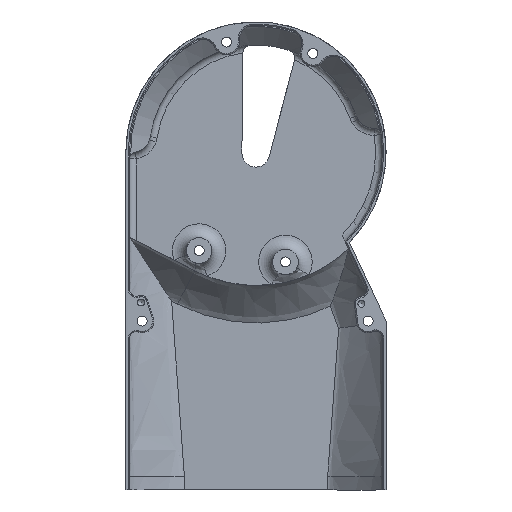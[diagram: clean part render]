
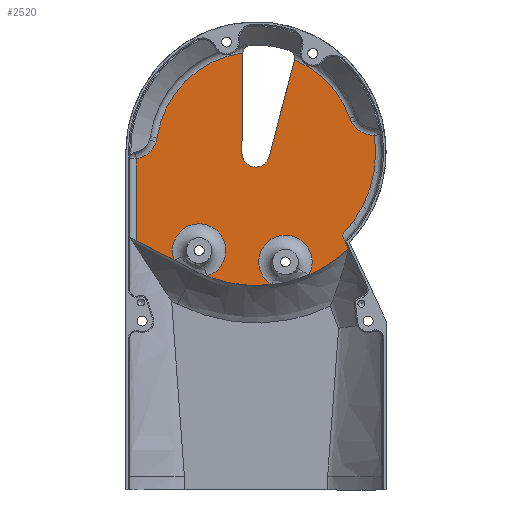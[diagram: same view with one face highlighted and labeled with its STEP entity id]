
A CAD part, front view. The second image highlights one B-rep face of the part: STEP entity #2520.
In plain terms, the highlighted planar face has unit normal (0, -1, 0).
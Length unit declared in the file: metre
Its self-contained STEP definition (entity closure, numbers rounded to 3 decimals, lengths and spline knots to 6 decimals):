
#159=CIRCLE('',#2732,0.0575);
#160=CIRCLE('',#2733,0.0115);
#161=CIRCLE('',#2734,0.0575);
#162=CIRCLE('',#2735,0.0515);
#163=CIRCLE('',#2736,0.011);
#164=CIRCLE('',#2737,0.043004);
#165=CIRCLE('',#2738,0.0035);
#166=CIRCLE('',#2739,0.006);
#167=CIRCLE('',#2740,0.0035);
#168=CIRCLE('',#2741,0.043004);
#169=CIRCLE('',#2742,0.011);
#170=CIRCLE('',#2743,0.0115);
#357=B_SPLINE_CURVE_WITH_KNOTS('',3,(#4792,#4793,#4794,#4795),
 .UNSPECIFIED.,.F.,.F.,(4,4),(0.,0.001967),.UNSPECIFIED.);
#358=B_SPLINE_CURVE_WITH_KNOTS('',3,(#4811,#4812,#4813,#4814),
 .UNSPECIFIED.,.F.,.F.,(4,4),(0.,0.001967),.UNSPECIFIED.);
#583=ORIENTED_EDGE('',*,*,#1326,.T.);
#584=ORIENTED_EDGE('',*,*,#1327,.F.);
#585=ORIENTED_EDGE('',*,*,#1328,.T.);
#586=ORIENTED_EDGE('',*,*,#1277,.T.);
#587=ORIENTED_EDGE('',*,*,#1329,.F.);
#588=ORIENTED_EDGE('',*,*,#1330,.F.);
#589=ORIENTED_EDGE('',*,*,#1331,.F.);
#590=ORIENTED_EDGE('',*,*,#1332,.F.);
#591=ORIENTED_EDGE('',*,*,#1333,.T.);
#592=ORIENTED_EDGE('',*,*,#1334,.T.);
#593=ORIENTED_EDGE('',*,*,#1335,.F.);
#594=ORIENTED_EDGE('',*,*,#1336,.F.);
#595=ORIENTED_EDGE('',*,*,#1337,.T.);
#596=ORIENTED_EDGE('',*,*,#1338,.F.);
#597=ORIENTED_EDGE('',*,*,#1339,.F.);
#598=ORIENTED_EDGE('',*,*,#1340,.F.);
#599=ORIENTED_EDGE('',*,*,#1341,.F.);
#600=ORIENTED_EDGE('',*,*,#1342,.T.);
#601=ORIENTED_EDGE('',*,*,#1343,.F.);
#1277=EDGE_CURVE('',#1654,#1653,#1863,.T.);
#1326=EDGE_CURVE('',#1694,#1695,#159,.F.);
#1327=EDGE_CURVE('',#1696,#1695,#160,.F.);
#1328=EDGE_CURVE('',#1696,#1654,#161,.F.);
#1329=EDGE_CURVE('',#1697,#1653,#162,.T.);
#1330=EDGE_CURVE('',#1698,#1697,#163,.F.);
#1331=EDGE_CURVE('',#1699,#1698,#357,.T.);
#1332=EDGE_CURVE('',#1700,#1699,#164,.T.);
#1333=EDGE_CURVE('',#1700,#1701,#165,.T.);
#1334=EDGE_CURVE('',#1701,#1702,#1879,.T.);
#1335=EDGE_CURVE('',#1703,#1702,#166,.F.);
#1336=EDGE_CURVE('',#1704,#1703,#1880,.T.);
#1337=EDGE_CURVE('',#1704,#1705,#167,.T.);
#1338=EDGE_CURVE('',#1706,#1705,#168,.T.);
#1339=EDGE_CURVE('',#1707,#1706,#358,.T.);
#1340=EDGE_CURVE('',#1708,#1707,#169,.F.);
#1341=EDGE_CURVE('',#1709,#1708,#1881,.T.);
#1342=EDGE_CURVE('',#1709,#1710,#1882,.T.);
#1343=EDGE_CURVE('',#1694,#1710,#170,.F.);
#1653=VERTEX_POINT('',#4450);
#1654=VERTEX_POINT('',#4452);
#1694=VERTEX_POINT('',#4783);
#1695=VERTEX_POINT('',#4784);
#1696=VERTEX_POINT('',#4786);
#1697=VERTEX_POINT('',#4789);
#1698=VERTEX_POINT('',#4791);
#1699=VERTEX_POINT('',#4796);
#1700=VERTEX_POINT('',#4798);
#1701=VERTEX_POINT('',#4800);
#1702=VERTEX_POINT('',#4802);
#1703=VERTEX_POINT('',#4804);
#1704=VERTEX_POINT('',#4806);
#1705=VERTEX_POINT('',#4808);
#1706=VERTEX_POINT('',#4810);
#1707=VERTEX_POINT('',#4815);
#1708=VERTEX_POINT('',#4817);
#1709=VERTEX_POINT('',#4819);
#1710=VERTEX_POINT('',#4821);
#1863=LINE('',#4451,#1980);
#1879=LINE('',#4801,#1996);
#1880=LINE('',#4805,#1997);
#1881=LINE('',#4818,#1998);
#1882=LINE('',#4820,#1999);
#1980=VECTOR('',#3089,1.);
#1996=VECTOR('',#3165,1.);
#1997=VECTOR('',#3168,1.);
#1998=VECTOR('',#3175,1.);
#1999=VECTOR('',#3176,1.);
#2095=EDGE_LOOP('',(#583,#584,#585,#586,#587,#588,#589,#590,#591,#592,#593,
#594,#595,#596,#597,#598,#599,#600,#601));
#2291=FACE_BOUND('',#2095,.T.);
#2470=PLANE('',#2731);
#2520=ADVANCED_FACE('',(#2291),#2470,.T.);
#2731=AXIS2_PLACEMENT_3D('',#4781,#3149,#3150);
#2732=AXIS2_PLACEMENT_3D('',#4782,#3151,#3152);
#2733=AXIS2_PLACEMENT_3D('',#4785,#3153,#3154);
#2734=AXIS2_PLACEMENT_3D('',#4787,#3155,#3156);
#2735=AXIS2_PLACEMENT_3D('',#4788,#3157,#3158);
#2736=AXIS2_PLACEMENT_3D('',#4790,#3159,#3160);
#2737=AXIS2_PLACEMENT_3D('',#4797,#3161,#3162);
#2738=AXIS2_PLACEMENT_3D('',#4799,#3163,#3164);
#2739=AXIS2_PLACEMENT_3D('',#4803,#3166,#3167);
#2740=AXIS2_PLACEMENT_3D('',#4807,#3169,#3170);
#2741=AXIS2_PLACEMENT_3D('',#4809,#3171,#3172);
#2742=AXIS2_PLACEMENT_3D('',#4816,#3173,#3174);
#2743=AXIS2_PLACEMENT_3D('',#4822,#3177,#3178);
#3089=DIRECTION('',(-0.423,0.,0.906));
#3149=DIRECTION('',(0.,-1.,0.));
#3150=DIRECTION('',(-1.,0.,0.));
#3151=DIRECTION('',(0.,1.,0.));
#3152=DIRECTION('',(0.,0.,-1.));
#3153=DIRECTION('',(0.,1.,0.));
#3154=DIRECTION('',(0.,0.,-1.));
#3155=DIRECTION('',(0.,1.,0.));
#3156=DIRECTION('',(0.,0.,-1.));
#3157=DIRECTION('',(0.,1.,0.));
#3158=DIRECTION('',(0.,0.,-1.));
#3159=DIRECTION('',(0.,1.,0.));
#3160=DIRECTION('',(0.,0.,-1.));
#3161=DIRECTION('',(0.,1.,0.));
#3162=DIRECTION('',(0.,0.,-1.));
#3163=DIRECTION('',(0.,1.,0.));
#3164=DIRECTION('',(0.,0.,-1.));
#3165=DIRECTION('',(-0.251,0.,-0.968));
#3166=DIRECTION('',(0.,1.,0.));
#3167=DIRECTION('',(0.,0.,-1.));
#3168=DIRECTION('',(-0.008,0.,-1.));
#3169=DIRECTION('',(0.,1.,0.));
#3170=DIRECTION('',(0.,0.,-1.));
#3171=DIRECTION('',(0.,1.,0.));
#3172=DIRECTION('',(0.,0.,-1.));
#3173=DIRECTION('',(0.,1.,0.));
#3174=DIRECTION('',(0.,0.,-1.));
#3175=DIRECTION('',(0.,0.,1.));
#3176=DIRECTION('',(0.889,0.,-0.458));
#3177=DIRECTION('',(0.,1.,0.));
#3178=DIRECTION('',(0.,0.,-1.));
#4450=CARTESIAN_POINT('',(-0.088921,0.03385,-0.129741));
#4451=CARTESIAN_POINT('',(-0.086729,0.03385,-0.134442));
#4452=CARTESIAN_POINT('',(-0.086225,0.03385,-0.135523));
#4781=CARTESIAN_POINT('',(0.,0.03385,-0.094));
#4782=CARTESIAN_POINT('',(-0.126,0.03385,-0.094));
#4783=CARTESIAN_POINT('',(-0.147196,0.03385,-0.147451));
#4784=CARTESIAN_POINT('',(-0.11936,0.03385,-0.151115));
#4785=CARTESIAN_POINT('',(-0.113318,0.03385,-0.14133));
#4786=CARTESIAN_POINT('',(-0.103193,0.03385,-0.146783));
#4787=CARTESIAN_POINT('',(-0.126,0.03385,-0.094));
#4788=CARTESIAN_POINT('',(-0.126,0.03385,-0.094));
#4789=CARTESIAN_POINT('',(-0.075001,0.03385,-0.086835));
#4790=CARTESIAN_POINT('',(-0.075147,0.03385,-0.075836));
#4791=CARTESIAN_POINT('',(-0.084681,0.03385,-0.081322));
#4792=CARTESIAN_POINT('',(-0.085502,0.03385,-0.079535));
#4793=CARTESIAN_POINT('',(-0.085281,0.03385,-0.080154));
#4794=CARTESIAN_POINT('',(-0.085009,0.03385,-0.080751));
#4795=CARTESIAN_POINT('',(-0.084681,0.03385,-0.081322));
#4796=CARTESIAN_POINT('',(-0.085502,0.03385,-0.079535));
#4797=CARTESIAN_POINT('',(-0.126,0.03385,-0.094));
#4798=CARTESIAN_POINT('',(-0.109444,0.03385,-0.054311));
#4799=CARTESIAN_POINT('',(-0.112867,0.03385,-0.05358));
#4800=CARTESIAN_POINT('',(-0.109479,0.03385,-0.054459));
#4801=CARTESIAN_POINT('',(-0.112186,0.03385,-0.064893));
#4802=CARTESIAN_POINT('',(-0.120258,0.03385,-0.096003));
#4803=CARTESIAN_POINT('',(-0.126065,0.03385,-0.094496));
#4804=CARTESIAN_POINT('',(-0.132065,0.03385,-0.094448));
#4805=CARTESIAN_POINT('',(-0.132053,0.03385,-0.092951));
#4806=CARTESIAN_POINT('',(-0.131724,0.03385,-0.05153));
#4807=CARTESIAN_POINT('',(-0.128224,0.03385,-0.051558));
#4808=CARTESIAN_POINT('',(-0.13172,0.03385,-0.051378));
#4809=CARTESIAN_POINT('',(-0.126,0.03385,-0.094));
#4810=CARTESIAN_POINT('',(-0.168549,0.03385,-0.087765));
#4811=CARTESIAN_POINT('',(-0.169004,0.03385,-0.089679));
#4812=CARTESIAN_POINT('',(-0.168794,0.03385,-0.089055));
#4813=CARTESIAN_POINT('',(-0.168645,0.03385,-0.088416));
#4814=CARTESIAN_POINT('',(-0.168549,0.03385,-0.087765));
#4815=CARTESIAN_POINT('',(-0.169004,0.03385,-0.089679));
#4816=CARTESIAN_POINT('',(-0.179429,0.03385,-0.086171));
#4817=CARTESIAN_POINT('',(-0.1775,0.03385,-0.097));
#4818=CARTESIAN_POINT('',(-0.1775,0.03385,-0.097));
#4819=CARTESIAN_POINT('',(-0.1775,0.03385,-0.13215));
#4820=CARTESIAN_POINT('',(-0.052761,0.03385,-0.196413));
#4821=CARTESIAN_POINT('',(-0.161249,0.03385,-0.140522));
#4822=CARTESIAN_POINT('',(-0.1505,0.03385,-0.136435));
